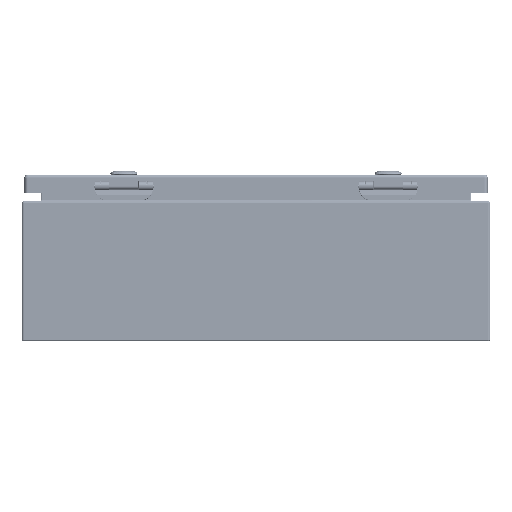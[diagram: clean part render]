
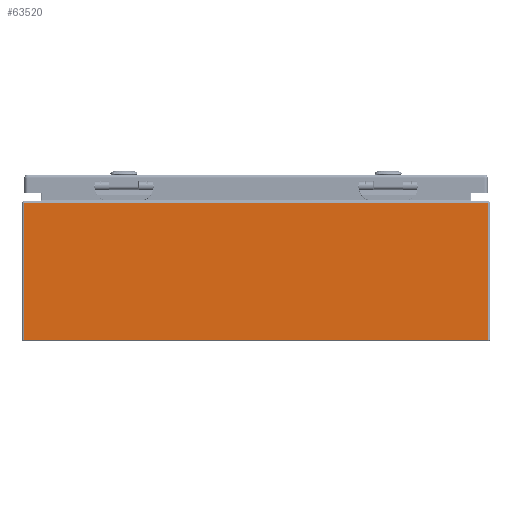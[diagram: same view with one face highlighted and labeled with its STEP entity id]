
A CAD part, left-side view. The second image highlights one B-rep face of the part: STEP entity #63520.
In plain terms, the highlighted planar face has unit normal (-1, 0, 0).
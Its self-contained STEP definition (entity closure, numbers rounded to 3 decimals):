
#6319=LINE('',#88833,#10176);
#6330=LINE('',#88874,#10187);
#6334=LINE('',#88889,#10191);
#6335=LINE('',#88890,#10192);
#10176=VECTOR('',#73940,0.394);
#10187=VECTOR('',#73989,0.394);
#10191=VECTOR('',#74007,0.394);
#10192=VECTOR('',#74008,0.394);
#15040=FACE_OUTER_BOUND('',#18954,.T.);
#18954=EDGE_LOOP('',(#42263,#42264,#42265,#42266));
#25459=VERTEX_POINT('',#88826);
#25460=VERTEX_POINT('',#88831);
#25471=VERTEX_POINT('',#88873);
#25475=VERTEX_POINT('',#88888);
#31948=EDGE_CURVE('',#25460,#25459,#6319,.T.);
#31968=EDGE_CURVE('',#25459,#25471,#6330,.T.);
#31976=EDGE_CURVE('',#25475,#25460,#6334,.T.);
#31977=EDGE_CURVE('',#25475,#25471,#6335,.T.);
#42263=ORIENTED_EDGE('',*,*,#31948,.F.);
#42264=ORIENTED_EDGE('',*,*,#31976,.F.);
#42265=ORIENTED_EDGE('',*,*,#31977,.T.);
#42266=ORIENTED_EDGE('',*,*,#31968,.F.);
#62176=PLANE('',#68329);
#63520=ADVANCED_FACE('',(#15040),#62176,.F.);
#68329=AXIS2_PLACEMENT_3D('',#88887,#74005,#74006);
#73940=DIRECTION('',(0.,-1.,0.));
#73989=DIRECTION('',(0.,0.,-1.));
#74005=DIRECTION('center_axis',(1.,0.,0.));
#74006=DIRECTION('ref_axis',(0.,0.,-1.));
#74007=DIRECTION('',(0.,0.,1.));
#74008=DIRECTION('',(0.,-1.,0.));
#88826=CARTESIAN_POINT('',(-10.,-9.916,5.916));
#88831=CARTESIAN_POINT('',(-10.,9.916,5.916));
#88833=CARTESIAN_POINT('',(-10.,-4.979,5.916));
#88873=CARTESIAN_POINT('',(-10.,-9.916,0.084));
#88874=CARTESIAN_POINT('',(-10.,-9.916,3.));
#88887=CARTESIAN_POINT('Origin',(-10.,0.,3.));
#88888=CARTESIAN_POINT('',(-10.,9.916,0.084));
#88889=CARTESIAN_POINT('',(-10.,9.916,3.));
#88890=CARTESIAN_POINT('',(-10.,5.,0.084));
